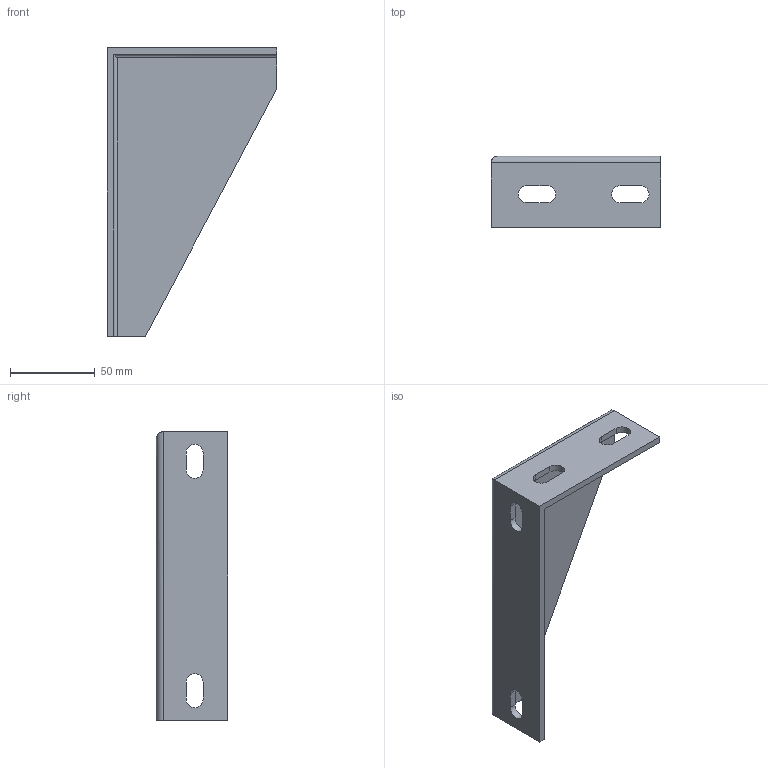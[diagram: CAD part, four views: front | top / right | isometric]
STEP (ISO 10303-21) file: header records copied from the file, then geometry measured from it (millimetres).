
FILE_DESCRIPTION((''),'2;1');
FILE_NAME('SUM170DS','2002-12-27T',('Lipro doo'),('Lipro d.o.o.'),'PRO/ENGINEER BY PARAMETRIC TECHNOLOGY CORPORATION, 2001150','PRO/ENGINEER BY PARAMETRIC TECHNOLOGY CORPORATION, 2001150','');
FILE_SCHEMA(('CONFIG_CONTROL_DESIGN'));
Length unit declared in the file: millimetre
Products named in the file (1): SUM170DS
Bounding box: 100 x 42 x 170 mm (x, y, z)
Volume: 82088.6 mm3; surface area: 43782.1 mm2
Topology: 1 solids, 1 shells, 30 faces, 82 edges, 54 vertices
Faces by surface type: plane 18, cylinder 12
Entity records: 1019 total; most frequent: CARTESIAN_POINT 185, ORIENTED_EDGE 164, DIRECTION 160, EDGE_CURVE 82, VECTOR 60, LINE 60, VERTEX_POINT 54, AXIS2_PLACEMENT_3D 50
